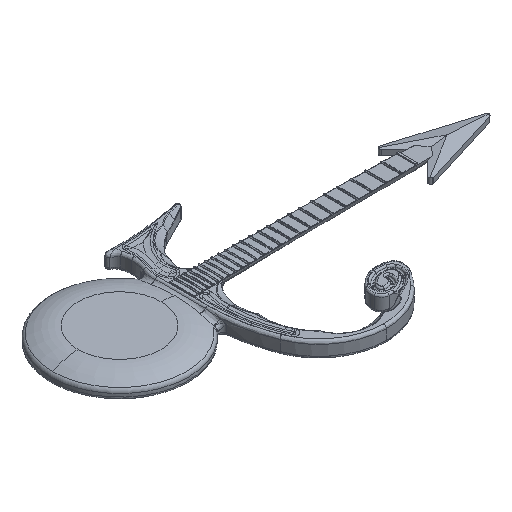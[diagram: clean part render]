
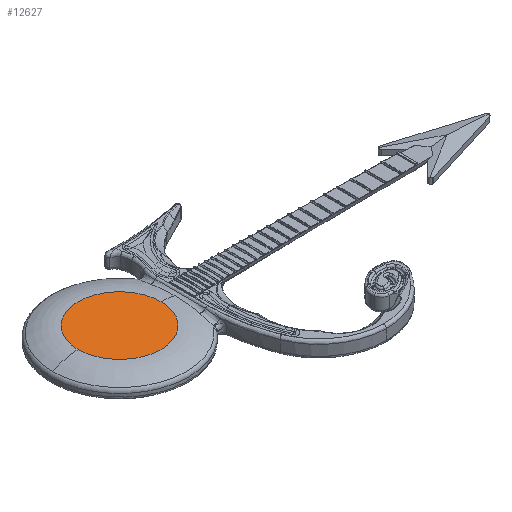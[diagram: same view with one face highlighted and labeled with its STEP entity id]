
A CAD part, isometric view. The second image highlights one B-rep face of the part: STEP entity #12627.
In plain terms, the highlighted planar face has unit normal (0, 0, 1).
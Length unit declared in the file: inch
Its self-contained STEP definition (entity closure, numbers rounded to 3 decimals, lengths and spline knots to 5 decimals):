
#155 = CARTESIAN_POINT ( 'NONE',  ( 0., 0., 1.4375 ) ) ;
#3631 = CARTESIAN_POINT ( 'NONE',  ( 3.75, 0., 1.4375 ) ) ;
#3969 = AXIS2_PLACEMENT_3D ( 'NONE', #155, #13744, #15774 ) ;
#4368 = EDGE_CURVE ( 'NONE', #21314, #14202, #11308, .T. ) ;
#4421 = PLANE ( 'NONE',  #20848 ) ;
#4509 = DIRECTION ( 'NONE',  ( -1., 0., 0. ) ) ;
#5484 = ORIENTED_EDGE ( 'NONE', *, *, #17313, .F. ) ;
#6843 = EDGE_LOOP ( 'NONE', ( #9956, #5484 ) ) ;
#9956 = ORIENTED_EDGE ( 'NONE', *, *, #4368, .F. ) ;
#10827 = AXIS2_PLACEMENT_3D ( 'NONE', #13103, #22591, #14967 ) ;
#11308 = CIRCLE ( 'NONE', #10827, 3.75 ) ;
#12366 = DIRECTION ( 'NONE',  ( 0., 0., -1. ) ) ;
#12420 = CIRCLE ( 'NONE', #3969, 3.75 ) ;
#12522 = FACE_OUTER_BOUND ( 'NONE', #6843, .T. ) ;
#12627 = ADVANCED_FACE ( 'NONE', ( #12522 ), #4421, .F. ) ;
#13103 = CARTESIAN_POINT ( 'NONE',  ( 0., 0., 1.4375 ) ) ;
#13744 = DIRECTION ( 'NONE',  ( 0., 0., -1. ) ) ;
#14202 = VERTEX_POINT ( 'NONE', #3631 ) ;
#14967 = DIRECTION ( 'NONE',  ( -1., 0., 0. ) ) ;
#15774 = DIRECTION ( 'NONE',  ( -1., 0., 0. ) ) ;
#16273 = CARTESIAN_POINT ( 'NONE',  ( -3.75, 0., 1.4375 ) ) ;
#17313 = EDGE_CURVE ( 'NONE', #14202, #21314, #12420, .T. ) ;
#20848 = AXIS2_PLACEMENT_3D ( 'NONE', #23874, #12366, #4509 ) ;
#21314 = VERTEX_POINT ( 'NONE', #16273 ) ;
#22591 = DIRECTION ( 'NONE',  ( 0., 0., -1. ) ) ;
#23874 = CARTESIAN_POINT ( 'NONE',  ( 0., 0., 1.4375 ) ) ;
